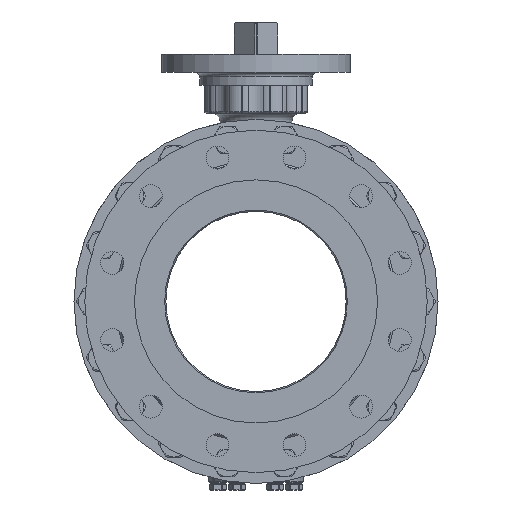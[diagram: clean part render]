
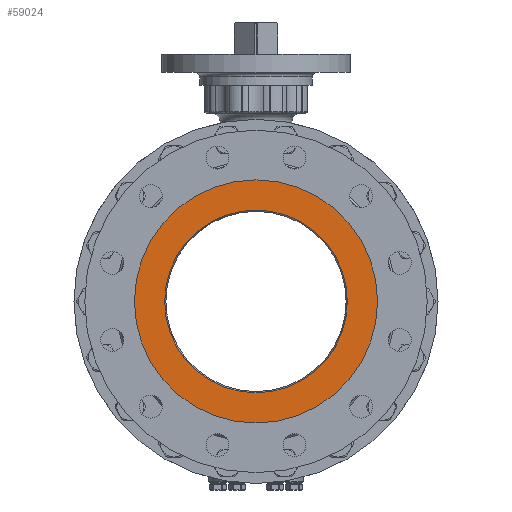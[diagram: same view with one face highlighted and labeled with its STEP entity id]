
A CAD part, left-side view. The second image highlights one B-rep face of the part: STEP entity #59024.
In plain terms, the highlighted planar face has unit normal (-1, 0, 0).
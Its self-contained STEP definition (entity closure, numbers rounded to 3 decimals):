
#4196=CARTESIAN_POINT('',(-251.,0.,0.));
#4197=DIRECTION('',(1.,0.,0.));
#4198=DIRECTION('',(0.,0.,1.));
#4199=AXIS2_PLACEMENT_3D('',#4196,#4197,#4198);
#4201=CARTESIAN_POINT('',(-251.,0.,0.));
#4202=DIRECTION('',(-1.,0.,0.));
#4203=DIRECTION('',(0.,0.,1.));
#4204=AXIS2_PLACEMENT_3D('',#4201,#4202,#4203);
#4206=CARTESIAN_POINT('',(-251.,0.,0.));
#4207=DIRECTION('',(1.,0.,0.));
#4208=DIRECTION('',(0.,0.,1.));
#4209=AXIS2_PLACEMENT_3D('',#4206,#4207,#4208);
#4211=CARTESIAN_POINT('',(-251.,0.,0.));
#4212=DIRECTION('',(-1.,0.,0.));
#4213=DIRECTION('',(0.,0.,1.));
#4214=AXIS2_PLACEMENT_3D('',#4211,#4212,#4213);
#48926=CARTESIAN_POINT('',(-251.,0.,101.35));
#48928=VERTEX_POINT('',#48926);
#48934=CARTESIAN_POINT('',(-251.,0.,-101.35));
#48936=VERTEX_POINT('',#48934);
#49053=CARTESIAN_POINT('',(-251.,0.,134.85));
#49055=VERTEX_POINT('',#49053);
#49057=CARTESIAN_POINT('',(-251.,0.,-134.85));
#49059=VERTEX_POINT('',#49057);
#59009=CARTESIAN_POINT('',(-251.,0.,0.));
#59010=DIRECTION('',(-1.,0.,0.));
#59011=DIRECTION('',(0.,0.,-1.));
#59012=AXIS2_PLACEMENT_3D('',#59009,#59010,#59011);
#59013=PLANE('',#59012);
#59014=ORIENTED_EDGE('',*,*,#59002,.F.);
#59015=ORIENTED_EDGE('',*,*,#58991,.T.);
#59016=EDGE_LOOP('',(#59014,#59015));
#59017=FACE_OUTER_BOUND('',#59016,.F.);
#59019=ORIENTED_EDGE('',*,*,#59018,.F.);
#59021=ORIENTED_EDGE('',*,*,#59020,.T.);
#59022=EDGE_LOOP('',(#59019,#59021));
#59023=FACE_BOUND('',#59022,.F.);
#59024=ADVANCED_FACE('',(#59017,#59023),#59013,.T.);
#4200=CIRCLE('',#4199,134.85);
#4205=CIRCLE('',#4204,134.85);
#4210=CIRCLE('',#4209,101.35);
#4215=CIRCLE('',#4214,101.35);
#58991=EDGE_CURVE('',#49055,#49059,#4200,.T.);
#59002=EDGE_CURVE('',#49055,#49059,#4205,.T.);
#59018=EDGE_CURVE('',#48928,#48936,#4210,.T.);
#59020=EDGE_CURVE('',#48928,#48936,#4215,.T.);
